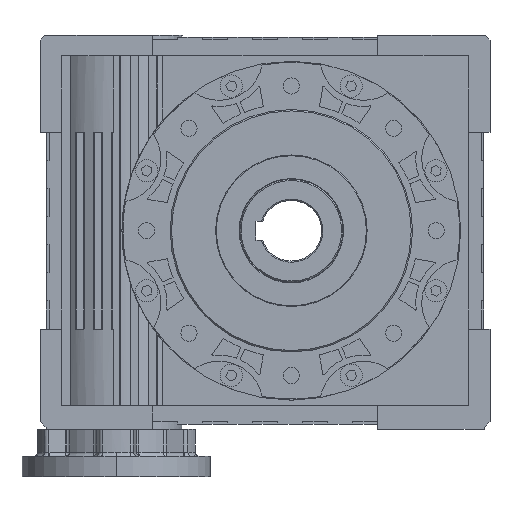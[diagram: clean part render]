
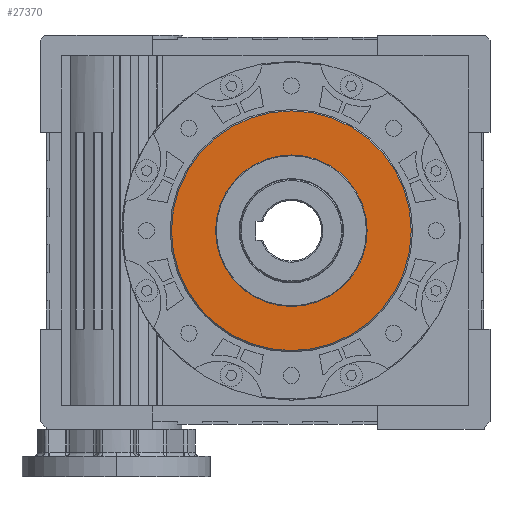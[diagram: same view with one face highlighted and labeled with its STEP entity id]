
A CAD part, left-side view. The second image highlights one B-rep face of the part: STEP entity #27370.
In plain terms, the highlighted planar face has unit normal (-1, 0, 0).
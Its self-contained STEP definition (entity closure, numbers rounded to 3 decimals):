
#1350 = VERTEX_POINT ( 'NONE', #27684 ) ;
#1361 = VERTEX_POINT ( 'NONE', #27695 ) ;
#1380 = VERTEX_POINT ( 'NONE', #27714 ) ;
#1385 = VERTEX_POINT ( 'NONE', #27719 ) ;
#1872 = ORIENTED_EDGE ( 'NONE', *, *, #27992, .T. ) ;
#1873 = ORIENTED_EDGE ( 'NONE', *, *, #10718, .T. ) ;
#1874 = ORIENTED_EDGE ( 'NONE', *, *, #10691, .T. ) ;
#1875 = ORIENTED_EDGE ( 'NONE', *, *, #27994, .T. ) ;
#5292 = FACE_OUTER_BOUND ( 'NONE', #32620, .T. ) ;
#5301 = FACE_BOUND ( 'NONE', #32614, .T. ) ;
#6514 = DIRECTION ( 'NONE',  ( -1., 0., 0. ) ) ;
#6518 = CARTESIAN_POINT ( 'NONE',  ( -85., 0., 0. ) ) ;
#6522 = PLANE ( 'NONE',  #26668 ) ;
#6525 = DIRECTION ( 'NONE',  ( 0., -1., 0. ) ) ;
#10691 = EDGE_CURVE ( 'NONE', #1350, #1380, #34094, .T. ) ;
#10718 = EDGE_CURVE ( 'NONE', #1361, #1385, #20631, .T. ) ;
#12596 = AXIS2_PLACEMENT_3D ( 'NONE', #13068, #13069, #13070 ) ;
#12609 = AXIS2_PLACEMENT_3D ( 'NONE', #13137, #13138, #13139 ) ;
#13068 = CARTESIAN_POINT ( 'NONE',  ( -85., 0., 0. ) ) ;
#13069 = DIRECTION ( 'NONE',  ( 1., 0., 0. ) ) ;
#13070 = DIRECTION ( 'NONE',  ( 0., 0., 1. ) ) ;
#13137 = CARTESIAN_POINT ( 'NONE',  ( -85., 0., 0. ) ) ;
#13138 = DIRECTION ( 'NONE',  ( -1., 0., 0. ) ) ;
#13139 = DIRECTION ( 'NONE',  ( 0., 1., 0. ) ) ;
#20631 = CIRCLE ( 'NONE', #12609, 89. ) ;
#23994 = CIRCLE ( 'NONE', #26867, 89. ) ;
#23996 = CIRCLE ( 'NONE', #26869, 56.25 ) ;
#24604 = CARTESIAN_POINT ( 'NONE',  ( -85., 0., 0. ) ) ;
#24606 = DIRECTION ( 'NONE',  ( -1., 0., 0. ) ) ;
#24608 = DIRECTION ( 'NONE',  ( 0., 1., 0. ) ) ;
#24616 = CARTESIAN_POINT ( 'NONE',  ( -85., 0., 0. ) ) ;
#24618 = DIRECTION ( 'NONE',  ( 1., 0., 0. ) ) ;
#24619 = DIRECTION ( 'NONE',  ( 0., 0., 1. ) ) ;
#26668 = AXIS2_PLACEMENT_3D ( 'NONE', #6518, #6514, #6525 ) ;
#26867 = AXIS2_PLACEMENT_3D ( 'NONE', #24604, #24606, #24608 ) ;
#26869 = AXIS2_PLACEMENT_3D ( 'NONE', #24616, #24618, #24619 ) ;
#27370 = ADVANCED_FACE ( 'NONE', ( #5292, #5301 ), #6522, .T. ) ;
#27684 = CARTESIAN_POINT ( 'NONE',  ( -85., 0., 56.25 ) ) ;
#27695 = CARTESIAN_POINT ( 'NONE',  ( -85., -89., 0. ) ) ;
#27714 = CARTESIAN_POINT ( 'NONE',  ( -85., 0., -56.25 ) ) ;
#27719 = CARTESIAN_POINT ( 'NONE',  ( -85., 89., 0. ) ) ;
#27992 = EDGE_CURVE ( 'NONE', #1385, #1361, #23994, .T. ) ;
#27994 = EDGE_CURVE ( 'NONE', #1380, #1350, #23996, .T. ) ;
#32614 = EDGE_LOOP ( 'NONE', ( #1874, #1875 ) ) ;
#32620 = EDGE_LOOP ( 'NONE', ( #1872, #1873 ) ) ;
#34094 = CIRCLE ( 'NONE', #12596, 56.25 ) ;
